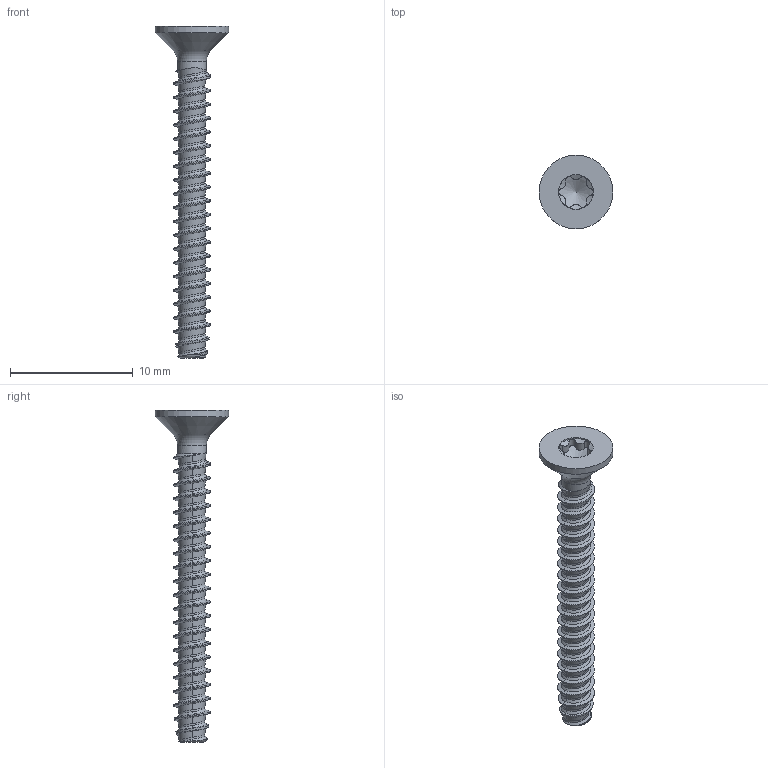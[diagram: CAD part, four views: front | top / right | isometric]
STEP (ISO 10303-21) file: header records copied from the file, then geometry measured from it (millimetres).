
FILE_DESCRIPTION(/* description */ (''),/* implementation_level */ '2;1');
FILE_NAME(/* name */ 'KN6041-STSplus30x27-T10.step',/* time_stamp */ '2017-10-12T09:26:43+02:00',/* author */ (''),/* organization */ (''),/* preprocessor_version */ 'ST-DEVELOPER v16',/* originating_system */ 'SIEMENS PLM Software NX 10.0',/* authorisation */ '');
FILE_SCHEMA (('AUTOMOTIVE_DESIGN { 1 0 10303 214 3 1 1 1 }'));
Length unit declared in the file: millimetre
Products named in the file (1): KN6041-STSplus30x27-T10
Bounding box: 6 x 6 x 27 mm (x, y, z)
Volume: 142.4 mm3; surface area: 356.7 mm2
Topology: 1 solids, 1 shells, 134 faces, 311 edges, 179 vertices
Faces by surface type: bspline 109, cylinder 16, cone 5, torus 2, plane 2
Full cylindrical faces by diameter (mm): 2.35 x1, 2.82 x1, 6 x1
Entity records: 9874 total; most frequent: CARTESIAN_POINT 7592, ORIENTED_EDGE 592, EDGE_CURVE 296, DIRECTION 190, VERTEX_POINT 173, B_SPLINE_CURVE_WITH_KNOTS 169, EDGE_LOOP 142, ADVANCED_FACE 134
